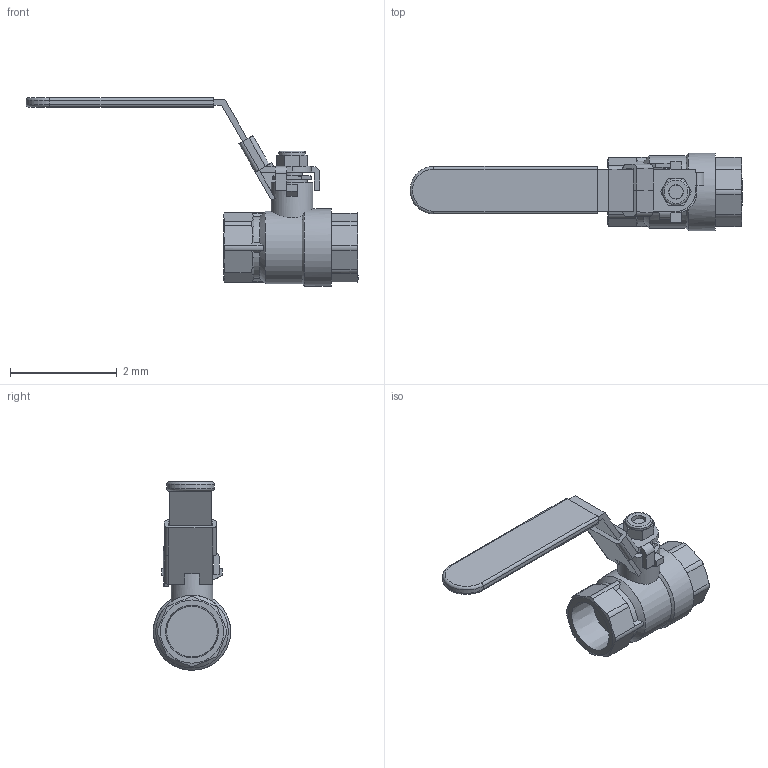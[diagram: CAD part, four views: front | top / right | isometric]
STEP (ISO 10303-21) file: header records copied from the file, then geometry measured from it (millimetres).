
FILE_DESCRIPTION(('Open CASCADE Model'),'2;1');
FILE_NAME('Open CASCADE Shape Model','2022-06-21T15:36:21',('Author'),( 'Open CASCADE'),'Open CASCADE STEP processor 7.3','Open CASCADE 7.3' ,'Unknown');
FILE_SCHEMA(('AUTOMOTIVE_DESIGN { 1 0 10303 214 1 1 1 1 }'));
Length unit declared in the file: millimetre
Products named in the file (1): Open CASCADE STEP translator 7.3 1
Bounding box: 6.23 x 1.45 x 3.53 mm (x, y, z)
Volume: 4 mm3; surface area: 36.4 mm2
Topology: 1 solids, 1 shells, 197 faces, 524 edges, 337 vertices
Faces by surface type: plane 131, cylinder 47, cone 16, torus 3
Full cylindrical faces by diameter (mm): 0.27 x1, 0.39 x1, 0.4 x1, 0.502 x1, 0.57 x1, 0.785 x1, 1.362 x1, 1.45 x1
Entity records: 15969 total; most frequent: CARTESIAN_POINT 6000, DIRECTION 1754, LINE 1095, VECTOR 1095, ORIENTED_EDGE 1048, PCURVE 1048, DEFINITIONAL_REPRESENTATION 1048, EDGE_CURVE 524
